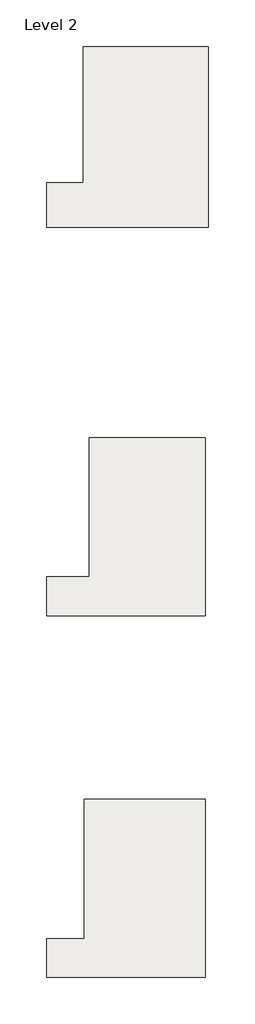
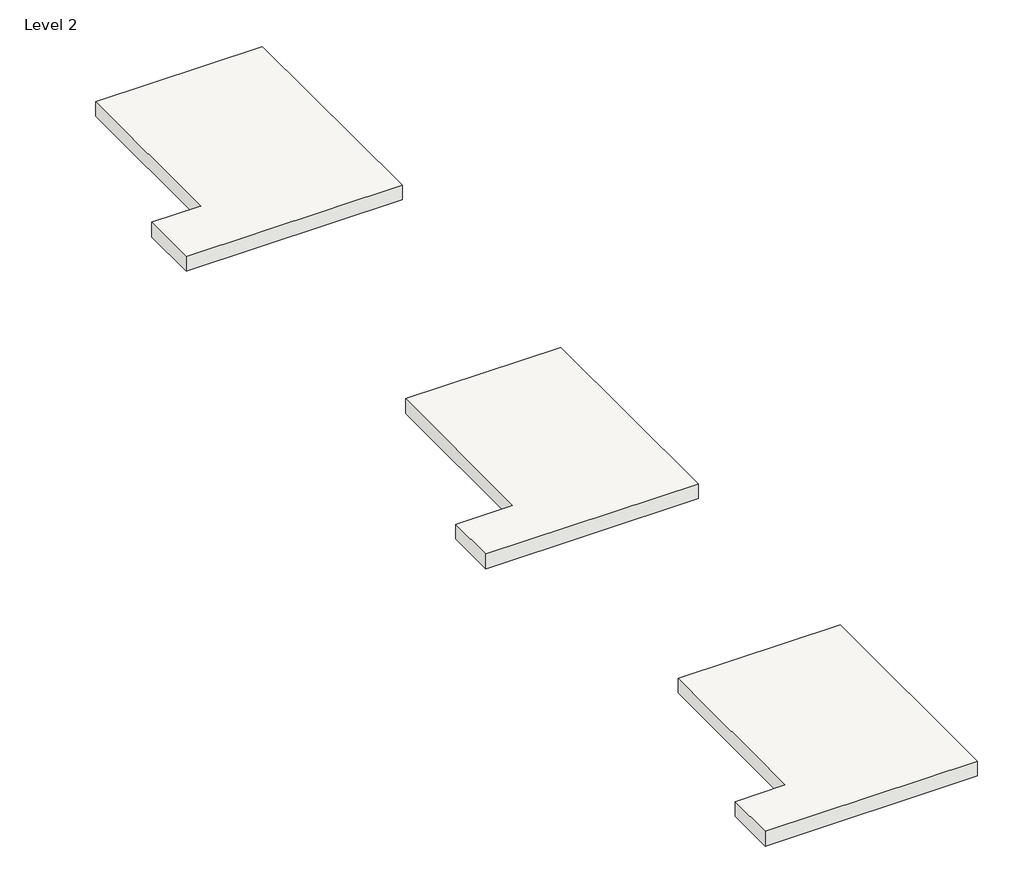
# One storey: 3 slabs.
"""IFC4 building model written with IfcOpenShell, lengths in millimetres."""

from ifc_helpers import new_model, si_unit, frame, origin, place, context, project, spatial, polyline, outline, extrude, element, save

model = new_model("IFC4")

# Units and contexts
model_context = context("Model", 3, world=origin())
ifc_project = project(units=[si_unit("LENGTHUNIT", "METRE", prefix="MILLI")], contexts=[model_context])

# Site, building, storey
site = spatial("IfcSite", under=ifc_project)
building = spatial("IfcBuilding", under=site)
storey = spatial("IfcBuildingStorey", under=building, Name="Level 2", Elevation=3048.0)

# Slabs
placement = place(None, origin())
element("IfcSlab", 1, ObjectType="Generic - 12\"", at=placement, inside=storey, context=model_context, shape_type="SweptSolid", body=[
    extrude(outline(polyline([(34599.3612561, -22076.6617549), (30452.8112561, -22076.6617549), (30452.8112561, -21060.6617549), (31437.0612561, -21060.6617549), (31437.0612561, -17428.4617549), (34599.3612561, -17428.4617549), (34599.3612561, -22076.6617549)])), frame((0.0, 0.0, 2746.0448), z_axis=(0.0, 0.0, 1.0), x_axis=(1.0, 0.0, 0.0)), (0.0, 0.0, 1.0), 301.9552),
])
element("IfcSlab", 2, ObjectType="Generic - 12\"", at=placement, inside=storey, context=model_context, shape_type="SweptSolid", body=[
    extrude(outline(polyline([(34599.3612561, -12627.8617549), (30452.8112561, -12627.8617549), (30452.8112561, -11611.8617549), (31570.4112561, -11611.8617549), (31570.4112561, -7979.6617549), (34599.3612561, -7979.6617549), (34599.3612561, -12627.8617549)])), frame((0.0, 0.0, 2746.0448), z_axis=(0.0, 0.0, 1.0), x_axis=(1.0, 0.0, 0.0)), (0.0, 0.0, 1.0), 301.9552),
])
element("IfcSlab", 3, ObjectType="Generic - 12\"", at=placement, inside=storey, context=model_context, shape_type="SweptSolid", body=[
    extrude(outline(polyline([(34669.2112561, -2493.2617549), (30452.8112561, -2493.2617549), (30452.8112561, -1324.8617549), (31409.8971461, -1324.8617549), (31409.8971461, 2231.1382451), (34669.2112561, 2231.1382451), (34669.2112561, -2493.2617549)])), frame((0.0, 0.0, 2746.0448), z_axis=(0.0, 0.0, 1.0), x_axis=(1.0, 0.0, 0.0)), (0.0, 0.0, 1.0), 301.9552),
])

save(model, "model.ifc")
